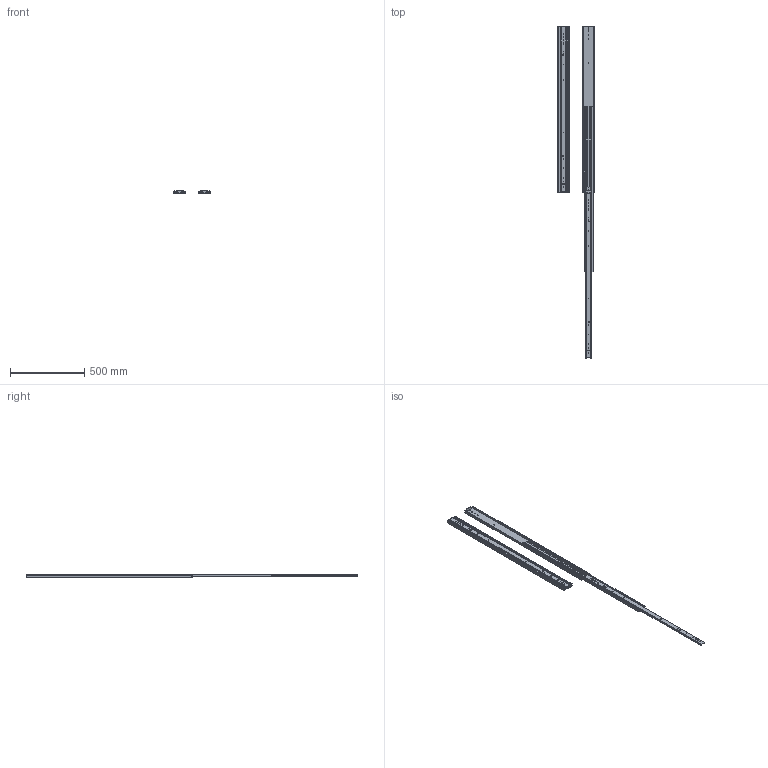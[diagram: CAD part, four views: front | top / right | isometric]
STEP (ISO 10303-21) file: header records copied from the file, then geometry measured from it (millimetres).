
FILE_DESCRIPTION((''),'2;1');
FILE_NAME('ASSEM1_1_2_3_4_5_6_7_8_9_10__18_ASM','2026-04-08T08:58:49',('T260078'),(''),'CREO PARAMETRIC BY PTC INC, 2025123','CREO PARAMETRIC BY PTC INC, 2025123','');
FILE_SCHEMA(('CONFIG_CONTROL_DESIGN','SHAPE_APPEARANCE_LAYERS_GROUPS'));
Length unit declared in the file: millimetre
Products named in the file (6): 76J01-44_X2_540B_X0_-M; 76J01-44_X2_540B_X0_-I; 76J01-44_X2_540B_X0_-O; 76J01-44_X2_540_X0__ASM; 76J01-44_X2_540B_X0_-_X2_5C5595_ASM; ASSEM1_1_2_3_4_5_6_7_8_9_10__18_ASM
Assembly tree (8 placements, depth 3):
  ASSEM1_1_2_3_4_5_6_7_8_9_10__18_ASM
    76J01-44_X2_540_X0__ASM
      76J01-44_X2_540B_X0_-M
      76J01-44_X2_540B_X0_-I
      76J01-44_X2_540B_X0_-O
    76J01-44_X2_540B_X0_-_X2_5C5595_ASM
      76J01-44_X2_540B_X0_-M
      76J01-44_X2_540B_X0_-I
      76J01-44_X2_540B_X0_-O
Bounding box: 245.44 x 2235.2 x 19.3 mm (x, y, z)
Volume: 1381373.2 mm3; surface area: 1231764.5 mm2
Topology: 6 solids, 6 shells, 380 faces, 1228 edges, 848 vertices
Faces by surface type: cylinder 212, plane 168
Entity records: 8392 total; most frequent: CARTESIAN_POINT 1340, DIRECTION 1242, ORIENTED_EDGE 1228, EDGE_CURVE 614, AXIS2_PLACEMENT_3D 443, VERTEX_POINT 424, VECTOR 356, LINE 356
